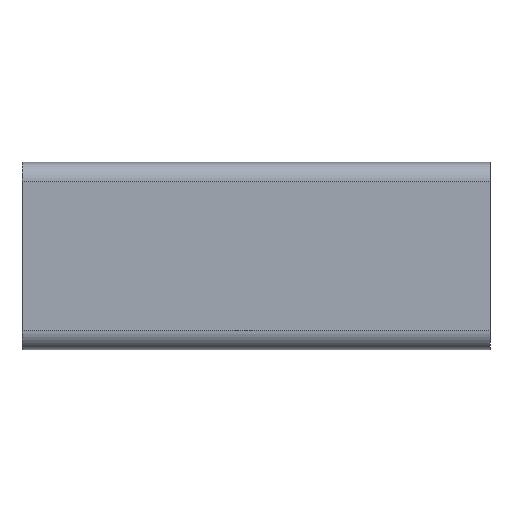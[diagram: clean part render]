
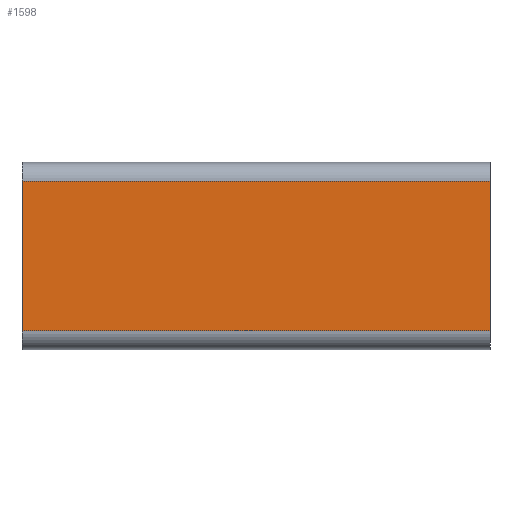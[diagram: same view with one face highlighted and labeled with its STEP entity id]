
A CAD part, left-side view. The second image highlights one B-rep face of the part: STEP entity #1598.
In plain terms, the highlighted planar face has unit normal (-1, 0, 0).
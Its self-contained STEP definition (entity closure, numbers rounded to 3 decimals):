
#54 = AXIS2_PLACEMENT_3D ( 'NONE', #1087, #1048, #2314 ) ;
#165 = DIRECTION ( 'NONE',  ( 0., -1., 0. ) ) ;
#191 = LINE ( 'NONE', #247, #1152 ) ;
#247 = CARTESIAN_POINT ( 'NONE',  ( -20., 50., -16. ) ) ;
#256 = CARTESIAN_POINT ( 'NONE',  ( -20., -50., -16. ) ) ;
#511 = CARTESIAN_POINT ( 'NONE',  ( -20., -50., -16. ) ) ;
#542 = DIRECTION ( 'NONE',  ( 0., 0., 1. ) ) ;
#623 = CARTESIAN_POINT ( 'NONE',  ( -20., 50., -16. ) ) ;
#1046 = EDGE_CURVE ( 'NONE', #4746, #2328, #191, .T. ) ;
#1048 = DIRECTION ( 'NONE',  ( 1., 0., 0. ) ) ;
#1061 = ORIENTED_EDGE ( 'NONE', *, *, #2742, .F. ) ;
#1087 = CARTESIAN_POINT ( 'NONE',  ( -20., 50., -16. ) ) ;
#1110 = VECTOR ( 'NONE', #3174, 1000. ) ;
#1152 = VECTOR ( 'NONE', #165, 1000. ) ;
#1308 = CARTESIAN_POINT ( 'NONE',  ( -20., 50., 16. ) ) ;
#1459 = PLANE ( 'NONE',  #54 ) ;
#1598 = ADVANCED_FACE ( 'NONE', ( #3100 ), #1459, .F. ) ;
#1771 = VERTEX_POINT ( 'NONE', #3989 ) ;
#1926 = VERTEX_POINT ( 'NONE', #1308 ) ;
#2143 = LINE ( 'NONE', #511, #3374 ) ;
#2251 = ORIENTED_EDGE ( 'NONE', *, *, #4918, .F. ) ;
#2314 = DIRECTION ( 'NONE',  ( 0., 0., -1. ) ) ;
#2328 = VERTEX_POINT ( 'NONE', #256 ) ;
#2597 = LINE ( 'NONE', #623, #3045 ) ;
#2649 = EDGE_CURVE ( 'NONE', #2328, #1771, #2143, .T. ) ;
#2687 = CARTESIAN_POINT ( 'NONE',  ( -20., 50., 16. ) ) ;
#2742 = EDGE_CURVE ( 'NONE', #4746, #1926, #2597, .T. ) ;
#2754 = ORIENTED_EDGE ( 'NONE', *, *, #1046, .T. ) ;
#2992 = DIRECTION ( 'NONE',  ( 0., 0., 1. ) ) ;
#3045 = VECTOR ( 'NONE', #2992, 1000. ) ;
#3100 = FACE_OUTER_BOUND ( 'NONE', #4835, .T. ) ;
#3174 = DIRECTION ( 'NONE',  ( 0., -1., 0. ) ) ;
#3240 = ORIENTED_EDGE ( 'NONE', *, *, #2649, .T. ) ;
#3374 = VECTOR ( 'NONE', #542, 1000. ) ;
#3881 = LINE ( 'NONE', #2687, #1110 ) ;
#3989 = CARTESIAN_POINT ( 'NONE',  ( -20., -50., 16. ) ) ;
#4229 = CARTESIAN_POINT ( 'NONE',  ( -20., 50., -16. ) ) ;
#4746 = VERTEX_POINT ( 'NONE', #4229 ) ;
#4835 = EDGE_LOOP ( 'NONE', ( #3240, #2251, #1061, #2754 ) ) ;
#4918 = EDGE_CURVE ( 'NONE', #1926, #1771, #3881, .T. ) ;
